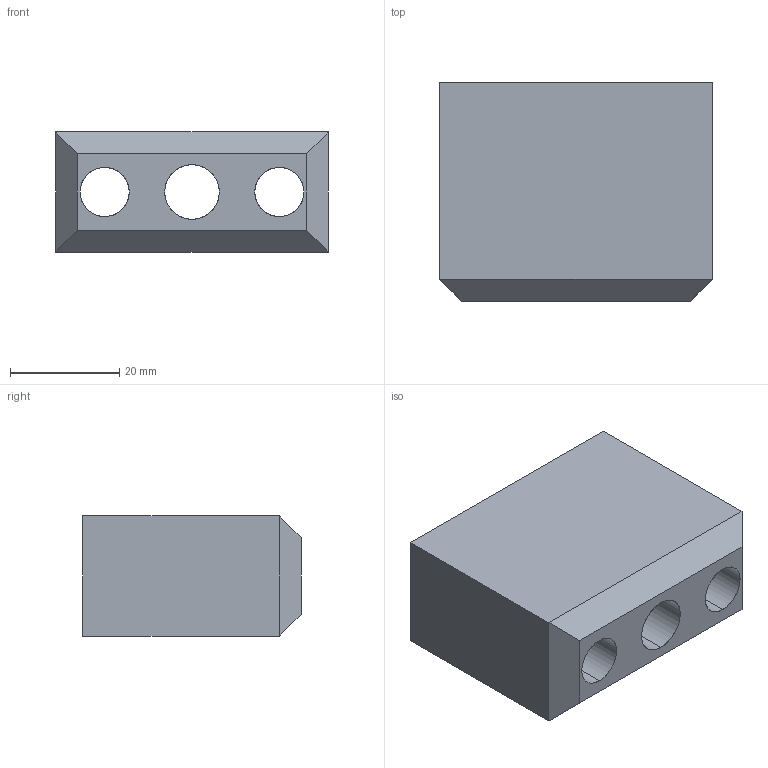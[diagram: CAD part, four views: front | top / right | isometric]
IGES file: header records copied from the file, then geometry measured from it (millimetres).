
Start section: START RECORD GO HERE.
Global section: file name: 761-040050.igs; native system: DASSAULT SYSTEMES CATIA V5 R20 - www.3ds.com; preprocessor: CATIA Version 5 Release 20 ; author: Utente; organization: NB04-ASUS; date: 20200411.174254; units: millimetre
Bounding box: 50 x 40 x 22 mm (x, y, z)
Surface area: 11582.8 mm2 (no closed solid volume)
Topology: 0 solids, 0 shells, 25 faces, 112 edges, 112 vertices
Faces by surface type: extrusion 13, revolution 12
